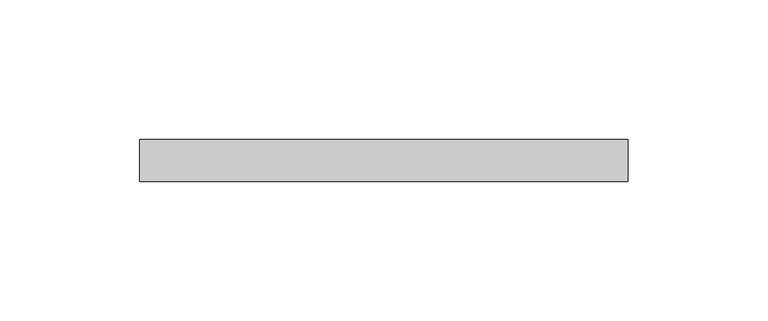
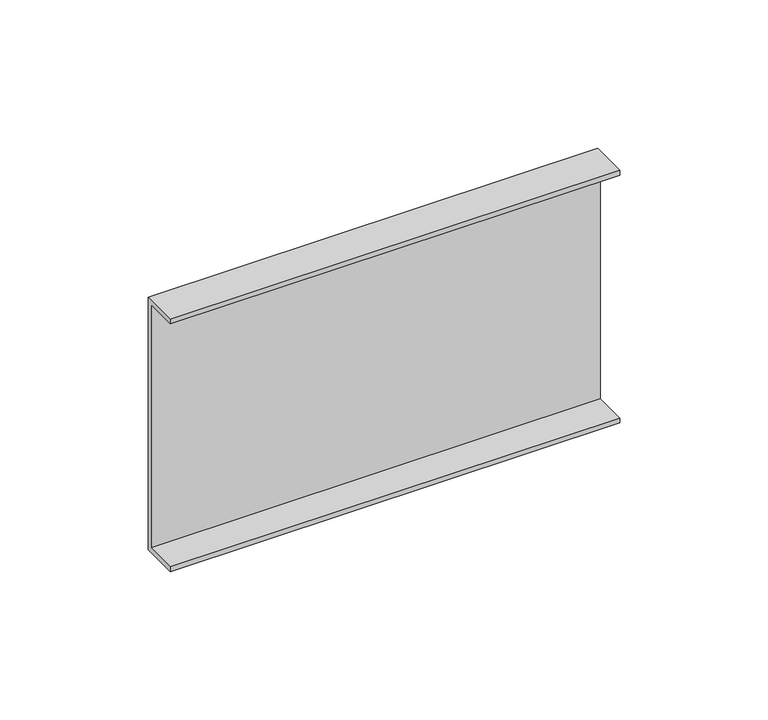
"""IFC4 building model written with IfcOpenShell, lengths in millimetres: cable carrier fitting geometry, BAKS_LD_CONN_Straight connector_LDC : LDC_H100."""

import ifcopenshell
import ifcopenshell.guid

model = None  # the IFC model being written
_history = None  # IfcOwnerHistory: only IFC2X3 demands one
_inside = {}  # id of a spatial element -> (the spatial element, [elements in it])
_under = {}  # id of a project, library or spatial element -> (it, [spatial elements below it])
_declared = {}  # id of a project -> (the project, [libraries it declares])
_typed = {}  # id of a type object -> (the type object, [elements of that type])
_made_of = {}  # id of a material, layer set ... -> (it, [elements and type objects made of it])


def new_model(schema):
    """Start an empty IFC model of exactly this schema.

    Asked for "IFC4X3", IfcOpenShell would pick the latest addendum, in which some entities
    have other attributes; the version numbers below select the first issue.
    IFC2X3 requires an IfcOwnerHistory on every rooted entity: one is made here for all.
    """
    global model, _history
    if schema == "IFC4X3":
        model = ifcopenshell.file(schema_version=(4, 3, 0, 0))
    else:
        model = ifcopenshell.file(schema=schema)
    _inside.clear()
    _under.clear()
    _declared.clear()
    _typed.clear()
    _made_of.clear()
    _history = None
    if model.schema == "IFC2X3":
        org = make("IfcOrganization", Name="unknown")
        user = make(
            "IfcPersonAndOrganization",
            ThePerson=make("IfcPerson", FamilyName="unknown"),
            TheOrganization=org,
        )
        app = make(
            "IfcApplication",
            ApplicationDeveloper=org,
            Version="unknown",
            ApplicationFullName="unknown",
            ApplicationIdentifier="unknown",
        )
        _history = make(
            "IfcOwnerHistory",
            OwningUser=user,
            OwningApplication=app,
            ChangeAction="ADDED",
            CreationDate=0,
        )
    return model


def make(cls, **values):
    """One entity of the class cls with the attributes given. An attribute that is None is left unset."""
    return model.create_entity(
        cls, **{name: value for name, value in values.items() if value is not None}
    )


def rooted(cls, **values):
    """An entity with a GlobalId (a new one), such as an element, a storey or a relation."""
    return make(cls, GlobalId=ifcopenshell.guid.new(), OwnerHistory=_history, **values)


def si_unit(unit_type, name, prefix=None):
    """IfcSIUnit, for example si_unit("LENGTHUNIT", "METRE", prefix="MILLI")."""
    return make("IfcSIUnit", UnitType=unit_type, Prefix=prefix, Name=name)


def assignment(units):
    """IfcUnitAssignment: the units of a project."""
    return None if units is None else make("IfcUnitAssignment", Units=units)


def point(xyz):
    """IfcCartesianPoint."""
    return None if xyz is None else make("IfcCartesianPoint", Coordinates=xyz)


def direction(xyz):
    """IfcDirection."""
    return None if xyz is None else make("IfcDirection", DirectionRatios=xyz)


def frame(location, z_axis=None, x_axis=None):
    """IfcAxis2Placement3D, a coordinate frame: its origin and axes. An axis left out is left unset."""
    return make(
        "IfcAxis2Placement3D",
        Location=point(location),
        Axis=direction(z_axis),
        RefDirection=direction(x_axis),
    )


def origin():
    """The frame at (0, 0, 0) with its axes left unset."""
    return frame((0.0, 0.0, 0.0))


def place(relative_to, where):
    """IfcLocalPlacement: puts the frame where relative to a parent placement (None: the world)."""
    return make(
        "IfcLocalPlacement", PlacementRelTo=relative_to, RelativePlacement=where
    )


def context(
    kind, dimensions, precision=None, world=None, true_north=None, identifier=None
):
    """IfcGeometricRepresentationContext, for example the 3D "Model" context."""
    return make(
        "IfcGeometricRepresentationContext",
        ContextIdentifier=identifier,
        ContextType=kind,
        CoordinateSpaceDimension=dimensions,
        Precision=precision,
        WorldCoordinateSystem=world,
        TrueNorth=true_north,
    )


def project(units=None, contexts=None):
    """IfcProject with its units and contexts."""
    return rooted(
        "IfcProject",
        Name="project",
        RepresentationContexts=contexts,
        UnitsInContext=assignment(units),
    )


def spatial(cls, under=None, at=None, **own):
    """A site, building, storey or space (cls), placed at a placement, below another one or the project."""
    s = rooted(cls, ObjectPlacement=at, **own)
    if under is not None:
        _under.setdefault(under.id(), (under, []))[1].append(s)
    return s


def polyline(points):
    """IfcPolyline through the points."""
    return make("IfcPolyline", Points=[point(p) for p in points])


def outline(outer, holes=None, kind="AREA"):
    """IfcArbitraryClosedProfileDef: a profile drawn as a closed curve; with holes, ...WithVoids."""
    if holes is None:
        return make("IfcArbitraryClosedProfileDef", ProfileType=kind, OuterCurve=outer)
    return make(
        "IfcArbitraryProfileDefWithVoids",
        ProfileType=kind,
        OuterCurve=outer,
        InnerCurves=holes,
    )


def extrude(swept, where, along, depth):
    """IfcExtrudedAreaSolid: the profile swept, set in the frame where, extruded along a direction by depth."""
    return make(
        "IfcExtrudedAreaSolid",
        SweptArea=swept,
        Position=where,
        ExtrudedDirection=direction(along),
        Depth=depth,
    )


def shape(context_of_items, identifier, shape_type, items):
    """IfcShapeRepresentation: the items that make up one representation, for example the "Body"."""
    return make(
        "IfcShapeRepresentation",
        ContextOfItems=context_of_items,
        RepresentationIdentifier=identifier,
        RepresentationType=shape_type,
        Items=items,
    )


def source(mapping_origin, context_of_items, identifier, shape_type, items):
    """IfcRepresentationMap: a shape defined once, which mapped items show again and again."""
    return make(
        "IfcRepresentationMap",
        MappingOrigin=mapping_origin,
        MappedRepresentation=shape(context_of_items, identifier, shape_type, items),
    )


def transform(
    local_origin,
    x_axis=None,
    y_axis=None,
    z_axis=None,
    scale=None,
    scale2=None,
    scale3=None,
    uniform=True,
):
    """IfcCartesianTransformationOperator3D, or its non-uniform kind. x_axis, y_axis, z_axis: its Axis1, 2, 3."""
    if uniform:
        return make(
            "IfcCartesianTransformationOperator3D",
            Axis1=direction(x_axis),
            Axis2=direction(y_axis),
            LocalOrigin=point(local_origin),
            Scale=scale,
            Axis3=direction(z_axis),
        )
    return make(
        "IfcCartesianTransformationOperator3DnonUniform",
        Axis1=direction(x_axis),
        Axis2=direction(y_axis),
        LocalOrigin=point(local_origin),
        Scale=scale,
        Axis3=direction(z_axis),
        Scale2=scale2,
        Scale3=scale3,
    )


def mapped(mapping_source, mapping_target):
    """IfcMappedItem: shows the shape of a source again, moved by a transform."""
    return make(
        "IfcMappedItem", MappingSource=mapping_source, MappingTarget=mapping_target
    )


def made_of(thing, what):
    """Note that an element or type object is made of a material, layer set ...; save() writes the relation."""
    if what is not None:
        _made_of.setdefault(what.id(), (what, []))[1].append(thing)
    return thing


def element(
    cls,
    number,
    at=None,
    inside=None,
    cuts=None,
    type_object=None,
    material=None,
    context=None,
    identifier="Body",
    shape_type=None,
    held_by="IfcProductDefinitionShape",
    body=None,
    shapes=None,
    **own,
):
    """One element of the class cls, such as IfcWall. Its Tag is "e" and its number.

    at: its placement. inside: the storey or other place that contains it. cuts: it is an
    opening in that element (IfcRelVoidsElement). A single representation is given by context,
    identifier, shape_type and body (its items); several are given by shapes. held_by: the class
    of the entity that holds the representations. save() writes the other relations.
    """
    e = rooted(cls, Tag="e%d" % number, ObjectPlacement=at, **own)
    if body is not None:
        shapes = [shape(context, identifier, shape_type, body)]
    if shapes is not None:
        e.Representation = make(held_by, Representations=shapes)
    if inside is not None:
        _inside.setdefault(inside.id(), (inside, []))[1].append(e)
    if cuts is not None:
        rooted(
            "IfcRelVoidsElement", RelatingBuildingElement=cuts, RelatedOpeningElement=e
        )
    if type_object is not None:
        _typed.setdefault(type_object.id(), (type_object, []))[1].append(e)
    return made_of(e, material)


def aggregate(whole, parts):
    """IfcRelAggregates: a whole, such as a stair, and the parts it consists of."""
    return rooted("IfcRelAggregates", RelatingObject=whole, RelatedObjects=parts)


def save(model, path):
    """Write the relations noted so far, then the file.

    IfcRelAggregates (storeys below a building ...), IfcRelContainedInSpatialStructure (elements
    in a storey), IfcRelDefinesByType, IfcRelAssociatesMaterial and IfcRelDeclares: one each for
    every whole, place, type object, material and project.
    """
    for whole, parts in _under.values():
        aggregate(whole, parts)
    for where, things in _inside.values():
        rooted(
            "IfcRelContainedInSpatialStructure",
            RelatedElements=things,
            RelatingStructure=where,
        )
    for kind, things in _typed.values():
        rooted("IfcRelDefinesByType", RelatedObjects=things, RelatingType=kind)
    for what, things in _made_of.values():
        rooted("IfcRelAssociatesMaterial", RelatedObjects=things, RelatingMaterial=what)
    for by, libraries in _declared.values():
        rooted("IfcRelDeclares", RelatingContext=by, RelatedDefinitions=libraries)
    model.write(path)


def cable_carrier_fitting_00049439(model_context):
    return source(origin(), model_context, "Body", "SweptSolid", [
        extrude(outline(polyline([(2.0, 52.0), (2.0, -52.0), (-13.0, -52.0), (-13.0, -50.0), (0.0, -50.0), (0.0, 50.0), (-13.0, 50.0), (-13.0, 52.0), (2.0, 52.0)])), frame((-87.5, 0.0, 0.0), z_axis=(1.0, 0.0, 0.0), x_axis=(0.0, 1.0, 0.0)), (0.0, 0.0, 1.0), 175.0),
    ])


if __name__ == "__main__":
    model = new_model("IFC4")
    model_context = context("Model", 3, world=origin())
    ifc_project = project(units=[si_unit("LENGTHUNIT", "METRE", prefix="MILLI")], contexts=[model_context])
    site = spatial("IfcSite", under=ifc_project)
    building = spatial("IfcBuilding", under=site)
    placement = place(None, origin())
    cable_carrier_fitting_shape = cable_carrier_fitting_00049439(model_context)
    element("IfcCableCarrierFitting", 1, ObjectType="BAKS_LD_CONN_Straight connector_LDC : LDC_H100", at=placement, inside=building, context=model_context, shape_type="MappedRepresentation", body=[
        mapped(cable_carrier_fitting_shape, transform((0.0, 0.0, 0.0), x_axis=(1.0, 0.0, 0.0), y_axis=(0.0, 1.0, 0.0), z_axis=(0.0, 0.0, 1.0))),
    ])
    save(model, "model.ifc")
